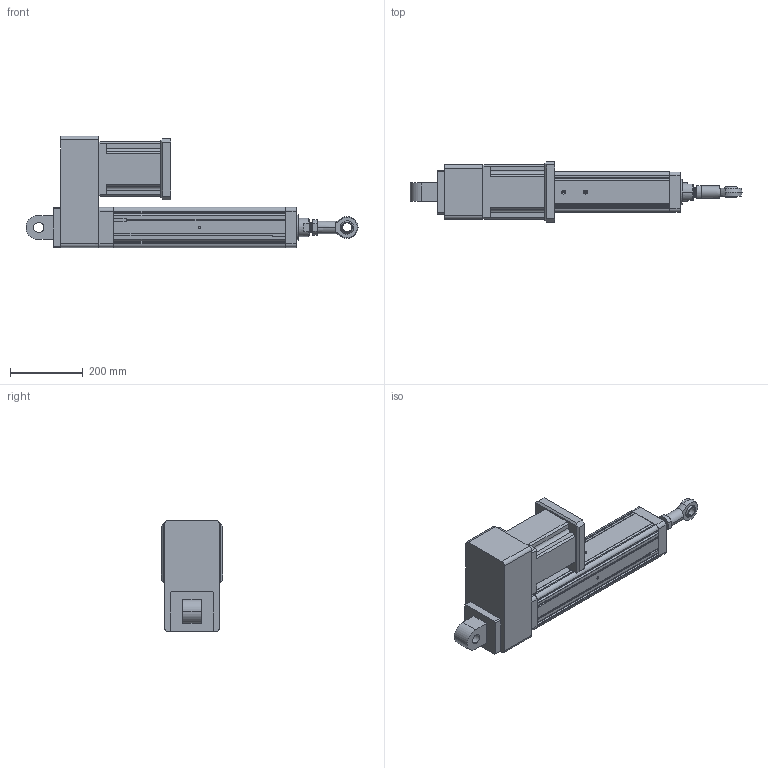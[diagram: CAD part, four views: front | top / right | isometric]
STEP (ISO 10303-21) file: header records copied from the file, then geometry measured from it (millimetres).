
FILE_DESCRIPTION (( 'STEP AP203' ), '1' );
FILE_NAME ('YRJ110-L300-H6K3.STEP', '2020-01-04T07:01:48', ( 'User' ), ( 'China' ), 'SwSTEP 2.0', 'SolidWorks 2016', '' );
FILE_SCHEMA (( 'CONFIG_CONTROL_DESIGN' ));
Length unit declared in the file: millimetre
Products named in the file (12): BNC01-SI25T_K-R; 萇儂碟-110; K3-110; 142熬厒儂; YRJ110-L300-H6K3; H5-110-1; H6-110; H3-110-2; K1-110; _BNC01-SI25T_K-R-001; _BNC01-SI25T_K-R-002; 095-100俴最倰第
Assembly tree (11 placements, depth 4):
  YRJ110-L300-H6K3
    095-100俴最倰第
    萇儂碟-110
    142熬厒儂
    H5-110-1
    H6-110
    H3-110-2
    K3-110
      K1-110
      BNC01-SI25T_K-R
        _BNC01-SI25T_K-R-001
        _BNC01-SI25T_K-R-002
Bounding box: 910 x 168 x 305.5 mm (x, y, z)
Volume: 12294647.8 mm3; surface area: 979294 mm2
Topology: 9 solids, 9 shells, 406 faces, 1116 edges, 719 vertices
Faces by surface type: plane 190, cylinder 168, cone 34, bspline 14
Entity records: 23115 total; most frequent: CARTESIAN_POINT 11746, ORIENTED_EDGE 2176, DIRECTION 2031, EDGE_CURVE 1088, VERTEX_POINT 719, AXIS2_PLACEMENT_3D 684, LINE 663, VECTOR 663
